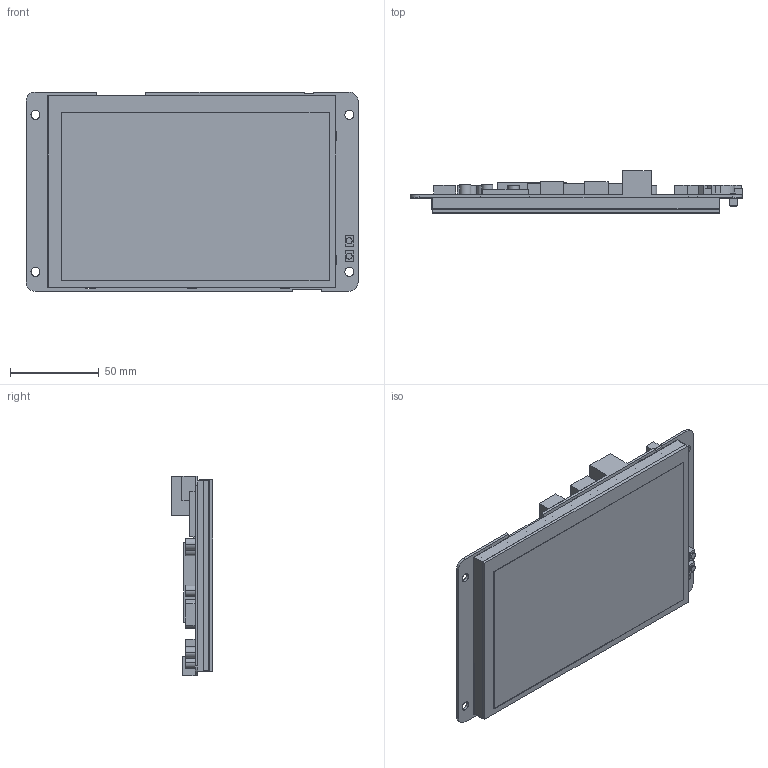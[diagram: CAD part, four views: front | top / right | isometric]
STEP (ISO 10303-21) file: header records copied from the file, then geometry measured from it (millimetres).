
FILE_DESCRIPTION((''),'2;1');
FILE_NAME('DMG12800T070-32WTC_ASM','2023-03-02T',('Administrator'),(''),'PRO/ENGINEER BY PARAMETRIC TECHNOLOGY CORPORATION, 2014320','PRO/ENGINEER BY PARAMETRIC TECHNOLOGY CORPORATION, 2014320','');
FILE_SCHEMA(('CONFIG_CONTROL_DESIGN','SHAPE_APPEARANCE_LAYERS_GROUPS'));
Length unit declared in the file: millimetre
Products named in the file (5): TK070024; TM070JDHG30-00; TPC050T0051G01V1; PCB; DMG12800T070-32WTC_ASM
Assembly tree (4 placements, depth 2):
  DMG12800T070-32WTC_ASM
    TK070024
    TM070JDHG30-00
    TPC050T0051G01V1
    PCB
Bounding box: 186.94 x 23.48 x 112.52 mm (x, y, z)
Volume: 155909.7 mm3; surface area: 135527.5 mm2
Topology: 4 solids, 4 shells, 279 faces, 707 edges, 470 vertices
Faces by surface type: plane 243, cylinder 36
Entity records: 8560 total; most frequent: CARTESIAN_POINT 1465, ORIENTED_EDGE 1414, DIRECTION 1355, EDGE_CURVE 707, VECTOR 635, LINE 635, VERTEX_POINT 470, AXIS2_PLACEMENT_3D 360
